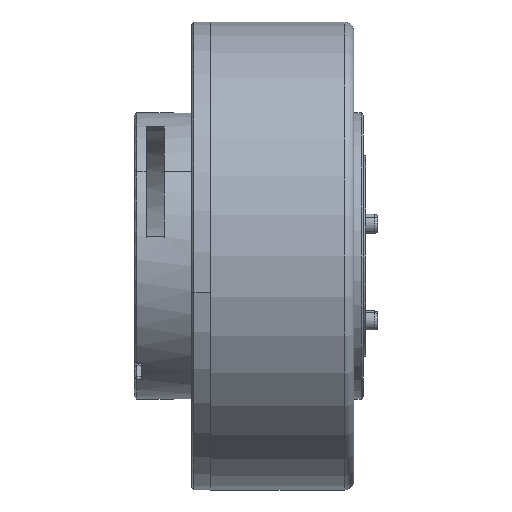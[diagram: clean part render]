
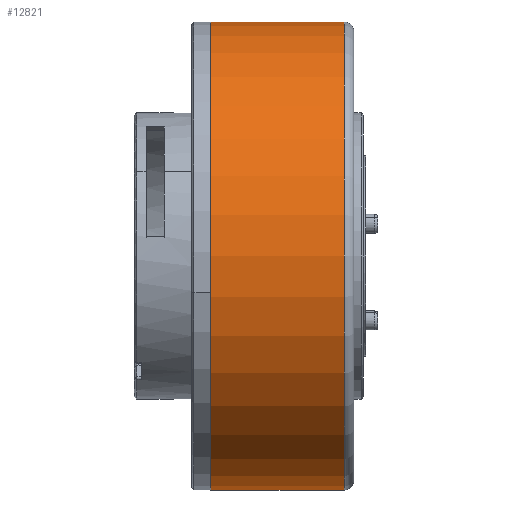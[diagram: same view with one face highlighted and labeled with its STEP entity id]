
A CAD part, left-side view. The second image highlights one B-rep face of the part: STEP entity #12821.
In plain terms, the highlighted cylindrical face has radius 49 mm (diameter 98 mm), a partial arc.
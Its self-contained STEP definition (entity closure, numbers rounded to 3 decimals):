
#3792 = VERTEX_POINT ( 'NONE', #60949 ) ;
#5021 = EDGE_LOOP ( 'NONE', ( #12738, #53603, #47196, #16160 ) ) ;
#5528 = AXIS2_PLACEMENT_3D ( 'NONE', #18479, #59910, #31773 ) ;
#5782 = DIRECTION ( 'NONE',  ( 0., 0., 1. ) ) ;
#9168 = DIRECTION ( 'NONE',  ( 0., -1., 0. ) ) ;
#9469 = CIRCLE ( 'NONE', #5528, 49. ) ;
#11455 = DIRECTION ( 'NONE',  ( 0., -1., 0. ) ) ;
#12738 = ORIENTED_EDGE ( 'NONE', *, *, #56789, .F. ) ;
#12821 = ADVANCED_FACE ( 'NONE', ( #46732 ), #27287, .T. ) ;
#16160 = ORIENTED_EDGE ( 'NONE', *, *, #17114, .T. ) ;
#16263 = CARTESIAN_POINT ( 'NONE',  ( 0., 30., 49. ) ) ;
#17114 = EDGE_CURVE ( 'NONE', #26068, #3792, #9469, .T. ) ;
#17680 = DIRECTION ( 'NONE',  ( 0., 0., -1. ) ) ;
#18479 = CARTESIAN_POINT ( 'NONE',  ( 0., 2., 0. ) ) ;
#18774 = DIRECTION ( 'NONE',  ( 0., 1., 0. ) ) ;
#23299 = EDGE_CURVE ( 'NONE', #35624, #49209, #30175, .T. ) ;
#26068 = VERTEX_POINT ( 'NONE', #34730 ) ;
#26292 = LINE ( 'NONE', #34572, #31350 ) ;
#27287 = CYLINDRICAL_SURFACE ( 'NONE', #38703, 49. ) ;
#27560 = CARTESIAN_POINT ( 'NONE',  ( 0., 30., -49. ) ) ;
#30135 = AXIS2_PLACEMENT_3D ( 'NONE', #38494, #18774, #5782 ) ;
#30175 = CIRCLE ( 'NONE', #30135, 49. ) ;
#31182 = VECTOR ( 'NONE', #9168, 1000. ) ;
#31350 = VECTOR ( 'NONE', #11455, 1000. ) ;
#31773 = DIRECTION ( 'NONE',  ( 0., 0., 1. ) ) ;
#32322 = LINE ( 'NONE', #45985, #31182 ) ;
#34572 = CARTESIAN_POINT ( 'NONE',  ( 0., 30., 49. ) ) ;
#34730 = CARTESIAN_POINT ( 'NONE',  ( 0., 2., -49. ) ) ;
#35624 = VERTEX_POINT ( 'NONE', #27560 ) ;
#38494 = CARTESIAN_POINT ( 'NONE',  ( 0., 30., 0. ) ) ;
#38703 = AXIS2_PLACEMENT_3D ( 'NONE', #41438, #46113, #17680 ) ;
#41438 = CARTESIAN_POINT ( 'NONE',  ( 0., 30., 0. ) ) ;
#42725 = EDGE_CURVE ( 'NONE', #35624, #26068, #32322, .T. ) ;
#45985 = CARTESIAN_POINT ( 'NONE',  ( 0., 30., -49. ) ) ;
#46113 = DIRECTION ( 'NONE',  ( 0., -1., 0. ) ) ;
#46732 = FACE_OUTER_BOUND ( 'NONE', #5021, .T. ) ;
#47196 = ORIENTED_EDGE ( 'NONE', *, *, #42725, .T. ) ;
#49209 = VERTEX_POINT ( 'NONE', #16263 ) ;
#53603 = ORIENTED_EDGE ( 'NONE', *, *, #23299, .F. ) ;
#56789 = EDGE_CURVE ( 'NONE', #49209, #3792, #26292, .T. ) ;
#59910 = DIRECTION ( 'NONE',  ( 0., 1., 0. ) ) ;
#60949 = CARTESIAN_POINT ( 'NONE',  ( 0., 2., 49. ) ) ;
